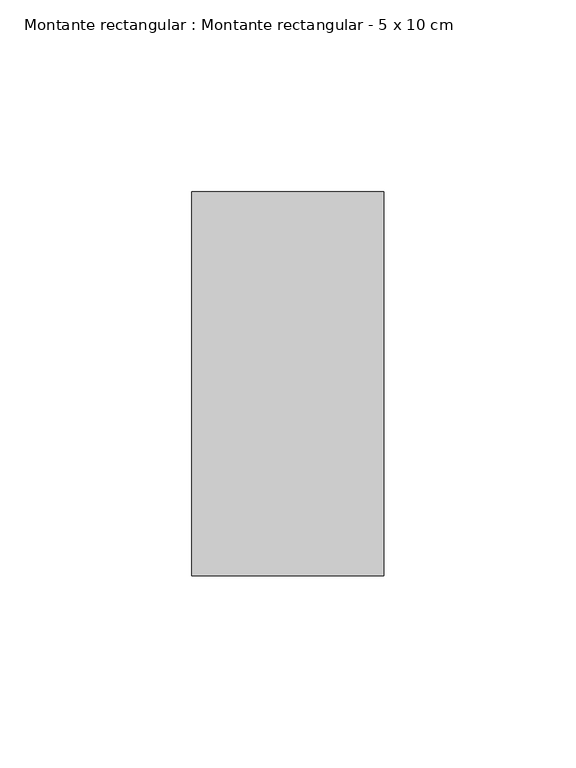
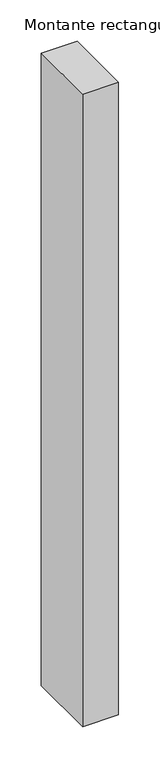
"""IFC4 building model written with IfcOpenShell, lengths in millimetres: member geometry, Montante rectangular : Montante rectangular - 5 x 10 cm."""

from ifc_helpers import new_model, si_unit, frame, origin, place, context, project, spatial, polyline, outline, extrude, source, transform, mapped, element, save


def montante_rectangular_montante_rectangular_5_x_10_cm_57fa5604(model_context):
    return source(origin(), model_context, "Body", "SweptSolid", [
        extrude(outline(polyline([(0.0, 50.0), (0.0, -50.0), (-50.0, -50.0), (-50.0, 50.0), (0.0, 50.0)])), frame((0.0, 0.0, -935.0), z_axis=(0.0, 0.0, 1.0), x_axis=(1.0, 0.0, 0.0)), (0.0, 0.0, 1.0), 935.0),
    ])


if __name__ == "__main__":
    model = new_model("IFC4")
    model_context = context("Model", 3, world=origin())
    ifc_project = project(units=[si_unit("LENGTHUNIT", "METRE", prefix="MILLI")], contexts=[model_context])
    site = spatial("IfcSite", under=ifc_project)
    building = spatial("IfcBuilding", under=site)
    placement = place(None, origin())
    montante_rectangular_montante_rectangular_5_x_10_cm_shape = montante_rectangular_montante_rectangular_5_x_10_cm_57fa5604(model_context)
    element("IfcMember", 1, ObjectType="Montante rectangular : Montante rectangular - 5 x 10 cm", at=placement, inside=building, context=model_context, shape_type="MappedRepresentation", body=[
        mapped(montante_rectangular_montante_rectangular_5_x_10_cm_shape, transform((0.0, 0.0, 0.0), x_axis=(1.0, 0.0, 0.0), y_axis=(0.0, 1.0, 0.0), z_axis=(0.0, 0.0, 1.0))),
    ])
    save(model, "model.ifc")
